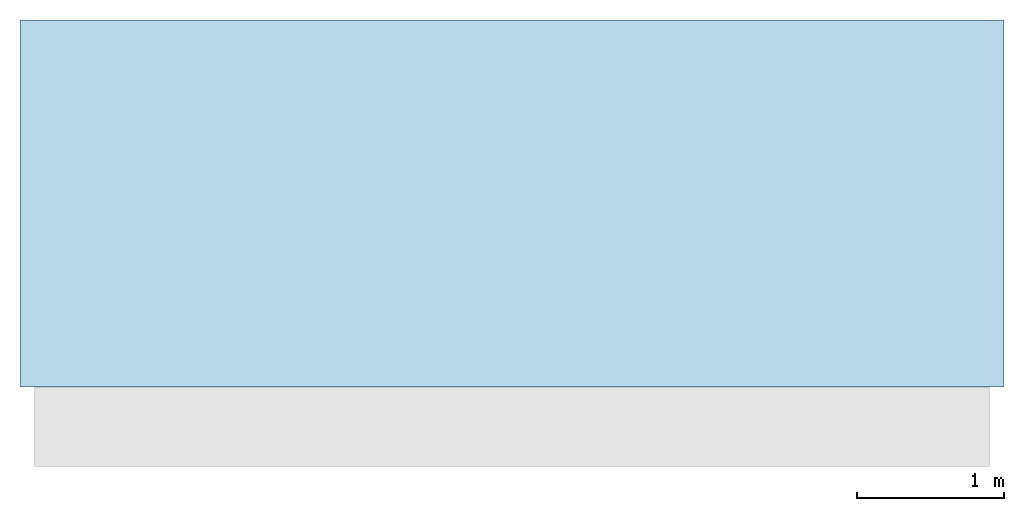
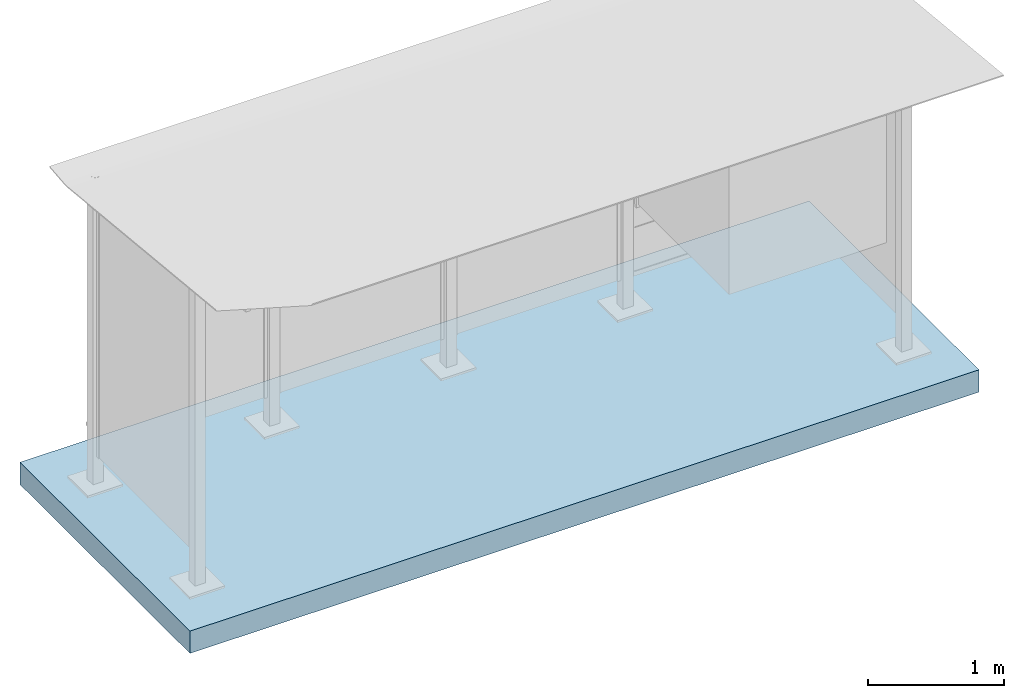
# One storey, incomplete: 1 slab.
"""IFC4 building model written with IfcOpenShell, lengths in metres."""

from ifc_helpers import new_model, entity, si_unit, converted_unit, direction, frame, origin, origin_2d_with_axis, place, context, subcontext, project, spatial, rectangle, extrude, material, type_object, element, save


model = new_model("IFC4")

# Units and contexts
model_context = context("Model", 3, precision=1e-05, world=origin(), true_north=direction((6.123031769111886e-17, 1.0)))
body_context = subcontext(model_context, "Body", "Model", "MODEL_VIEW")
ifc_project = project(units=[si_unit("LENGTHUNIT", "METRE"), converted_unit("PLANEANGLEUNIT", "DEGREE", entity("IfcPlaneAngleMeasure", 0.017453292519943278), si_unit("PLANEANGLEUNIT", "RADIAN"), dimensions=[0, 0, 0, 0, 0, 0, 0]), si_unit("AREAUNIT", "SQUARE_METRE")], contexts=[model_context])

# Site, building, storey
site_placement = place(None, origin())
site = spatial("IfcSite", under=ifc_project, at=site_placement, Name="Default", CompositionType="ELEMENT")
building_placement = place(site_placement, origin())
building = spatial("IfcBuilding", under=site, at=building_placement, CompositionType="ELEMENT")
storey_placement = place(building_placement, origin())
storey = spatial("IfcBuildingStorey", under=building, at=storey_placement, Name="Ebene 0", CompositionType="ELEMENT", Elevation=0.0)

# Slab
ifc_material = material(Name="DB_Ortbeton", Category="DB_Beton")
slab_type = type_object("IfcSlabType", Name="DB_Wetterschutzhaus_4-feldrig_Fundament:DB_Wetterschutzhaus_4-feldrig_Fundament", PredefinedType="BASESLAB", material=ifc_material)
slab_placement = place(storey_placement, origin())
element("IfcSlab", 1, at=slab_placement, inside=storey, type_object=slab_type, Name="DB_Wetterschutzhaus_4-feldrig_Fundament:DB_Wetterschutzhaus_4-feldrig_Fundament", ObjectType="DB_Wetterschutzhaus_4-feldrig_Fundament:DB_Wetterschutzhaus_4-feldrig_Fundament", PredefinedType="BASESLAB", context=body_context, shape_type="SweptSolid", body=[
    extrude(rectangle(XDim=2.4999999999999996, YDim=6.699999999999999, at=origin_2d_with_axis()), frame((3.0, 0.7500000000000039, 0.0), z_axis=(0.0, 0.0, 1.0), x_axis=(0.0, 1.0, 0.0)), (0.0, 0.0, 1.0), 0.2),
])

save(model, "model.ifc")
